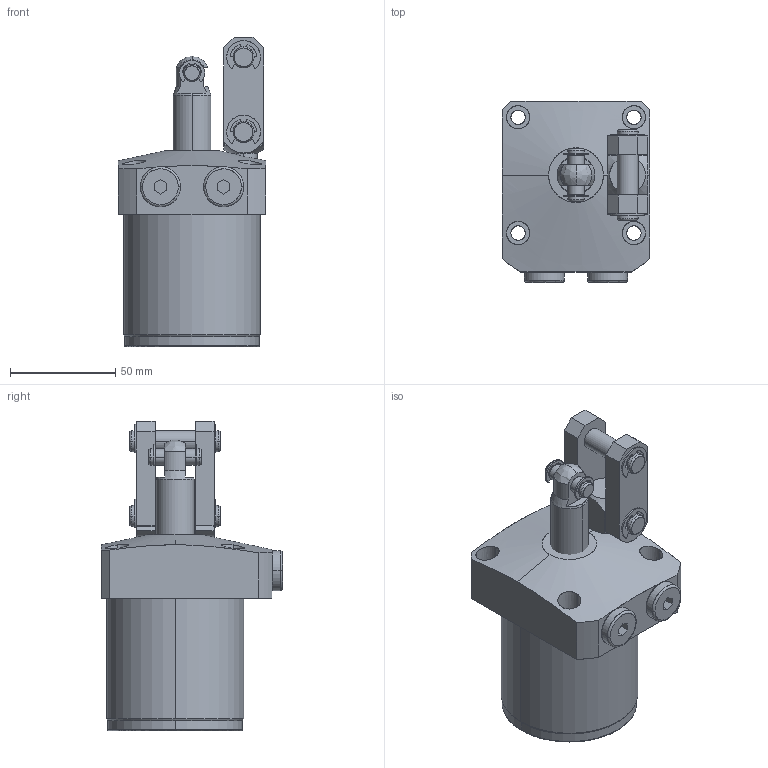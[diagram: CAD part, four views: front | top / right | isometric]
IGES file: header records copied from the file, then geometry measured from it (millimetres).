
Start section: SolidWorks IGES file using analytic representation for surfaces
Global section: file name: C:\Documents and Settings\nijil\My Documents\Clasys1\LQ Series\65\0401-0302.IGS; native system: SolidWorks 2010; preprocessor: SolidWorks 2010; author: nijil; date: 130723.130722; units: millimetre
Bounding box: 70 x 86 x 147 mm (x, y, z)
Surface area: 47914.1 mm2 (no closed solid volume)
Topology: 0 solids, 0 shells, 270 faces, 4180 edges, 4174 vertices
Faces by surface type: revolution 152, bspline 118
